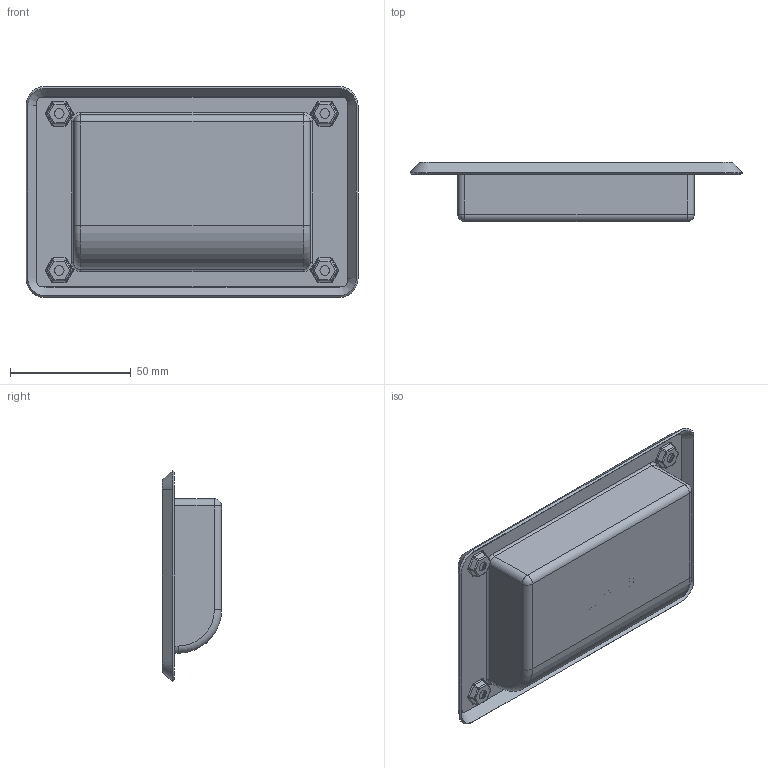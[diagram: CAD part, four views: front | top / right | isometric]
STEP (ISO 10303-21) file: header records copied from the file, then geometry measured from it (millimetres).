
FILE_DESCRIPTION (( 'STEP AP203' ), '1' );
FILE_NAME ('SK4-028-3.STEP', '2018-11-02T05:20:03', ( 'admin' ), ( 'Microsoft' ), 'SwSTEP 2.0', 'SolidWorks 2015', '' );
FILE_SCHEMA (( 'CONFIG_CONTROL_DESIGN' ));
Length unit declared in the file: millimetre
Products named in the file (3): SK4-028-3; SK4-028-3 奻
Assembly tree (2 placements, depth 2):
  SK4-028-3
    SK4-028-3
    SK4-028-3 奻
Bounding box: 137.5 x 24.5 x 87.5 mm (x, y, z)
Volume: 17670.6 mm3; surface area: 53004.3 mm2
Topology: 2 solids, 2 shells, 438 faces, 1091 edges, 648 vertices
Faces by surface type: plane 165, cylinder 150, bspline 83, sphere 28, torus 12
Entity records: 17776 total; most frequent: CARTESIAN_POINT 7855, ORIENTED_EDGE 2126, DIRECTION 1853, EDGE_CURVE 1063, VERTEX_POINT 648, AXIS2_PLACEMENT_3D 622, VECTOR 609, LINE 609
